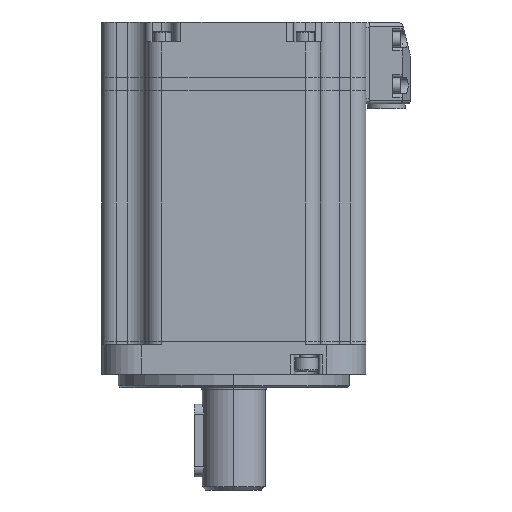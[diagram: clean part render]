
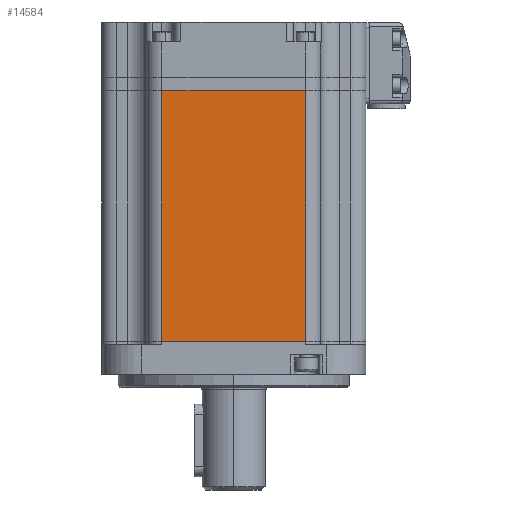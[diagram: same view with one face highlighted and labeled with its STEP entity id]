
A CAD part, left-side view. The second image highlights one B-rep face of the part: STEP entity #14584.
In plain terms, the highlighted planar face has unit normal (-1, 0, 0).
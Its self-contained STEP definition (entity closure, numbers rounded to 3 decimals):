
#1035 = CARTESIAN_POINT ( 'NONE',  ( -35.928, -24.624, 10. ) ) ;
#1253 = PLANE ( 'NONE',  #18047 ) ;
#2300 = DIRECTION ( 'NONE',  ( 0., -1., 0. ) ) ;
#4250 = VERTEX_POINT ( 'NONE', #33693 ) ;
#6459 = DIRECTION ( 'NONE',  ( 0., -1., 0. ) ) ;
#6817 = CARTESIAN_POINT ( 'NONE',  ( -35.928, -29.124, 10. ) ) ;
#8659 = CARTESIAN_POINT ( 'NONE',  ( -35.928, 18.876, 85.9 ) ) ;
#8748 = EDGE_CURVE ( 'NONE', #30893, #8999, #19732, .T. ) ;
#8999 = VERTEX_POINT ( 'NONE', #1035 ) ;
#11215 = VECTOR ( 'NONE', #11459, 1000. ) ;
#11459 = DIRECTION ( 'NONE',  ( 0., 0., -1. ) ) ;
#11837 = CARTESIAN_POINT ( 'NONE',  ( -35.928, -24.624, 85.9 ) ) ;
#12249 = EDGE_CURVE ( 'NONE', #8999, #17715, #25300, .T. ) ;
#12746 = ORIENTED_EDGE ( 'NONE', *, *, #8748, .T. ) ;
#13479 = CARTESIAN_POINT ( 'NONE',  ( -35.928, -29.124, 85.9 ) ) ;
#14584 = ADVANCED_FACE ( 'NONE', ( #27318 ), #1253, .F. ) ;
#14614 = DIRECTION ( 'NONE',  ( 0., 0., 1. ) ) ;
#15221 = DIRECTION ( 'NONE',  ( 1., 0., 0. ) ) ;
#17511 = ORIENTED_EDGE ( 'NONE', *, *, #33421, .T. ) ;
#17715 = VERTEX_POINT ( 'NONE', #30085 ) ;
#18047 = AXIS2_PLACEMENT_3D ( 'NONE', #31669, #15221, #34439 ) ;
#18576 = LINE ( 'NONE', #8659, #11215 ) ;
#19732 = LINE ( 'NONE', #6817, #27024 ) ;
#22839 = EDGE_LOOP ( 'NONE', ( #12746, #24153, #31598, #17511 ) ) ;
#23417 = VECTOR ( 'NONE', #2300, 1000. ) ;
#24153 = ORIENTED_EDGE ( 'NONE', *, *, #12249, .T. ) ;
#24279 = LINE ( 'NONE', #13479, #23417 ) ;
#24450 = VECTOR ( 'NONE', #14614, 1000. ) ;
#25300 = LINE ( 'NONE', #11837, #24450 ) ;
#27024 = VECTOR ( 'NONE', #6459, 1000. ) ;
#27112 = EDGE_CURVE ( 'NONE', #4250, #17715, #24279, .T. ) ;
#27318 = FACE_OUTER_BOUND ( 'NONE', #22839, .T. ) ;
#27551 = CARTESIAN_POINT ( 'NONE',  ( -35.928, 18.876, 10. ) ) ;
#30085 = CARTESIAN_POINT ( 'NONE',  ( -35.928, -24.624, 85.9 ) ) ;
#30893 = VERTEX_POINT ( 'NONE', #27551 ) ;
#31598 = ORIENTED_EDGE ( 'NONE', *, *, #27112, .F. ) ;
#31669 = CARTESIAN_POINT ( 'NONE',  ( -35.928, -29.124, 85.9 ) ) ;
#33421 = EDGE_CURVE ( 'NONE', #4250, #30893, #18576, .T. ) ;
#33693 = CARTESIAN_POINT ( 'NONE',  ( -35.928, 18.876, 85.9 ) ) ;
#34439 = DIRECTION ( 'NONE',  ( 0., 0., -1. ) ) ;
